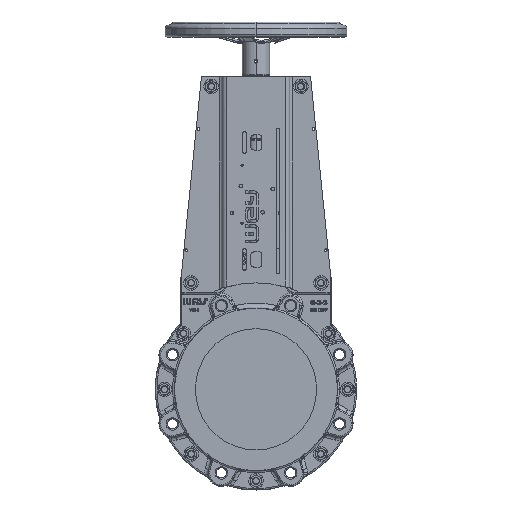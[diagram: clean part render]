
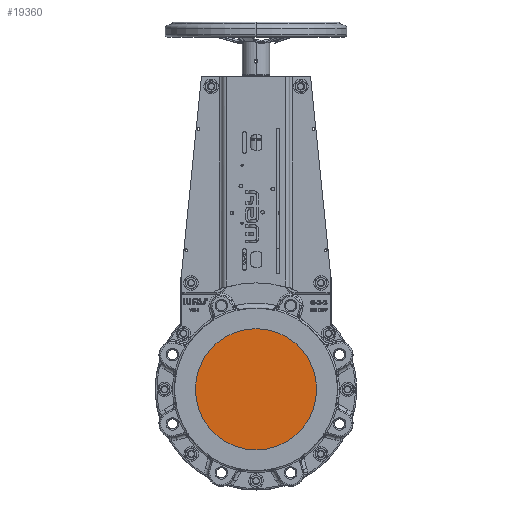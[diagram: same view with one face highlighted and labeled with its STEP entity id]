
A CAD part, top view. The second image highlights one B-rep face of the part: STEP entity #19360.
In plain terms, the highlighted planar face has unit normal (0, 0, 1).
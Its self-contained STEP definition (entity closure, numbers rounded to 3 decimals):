
#5136 = ORIENTED_EDGE ( 'NONE', *, *, #58540, .T. ) ;
#7538 = AXIS2_PLACEMENT_3D ( 'NONE', #82645, #82427, #82264 ) ;
#13226 = FACE_OUTER_BOUND ( 'NONE', #38157, .T. ) ;
#19360 = ADVANCED_FACE ( 'NONE', ( #13226 ), #84436, .T. ) ;
#30569 = DIRECTION ( 'NONE',  ( 0., 0., 1. ) ) ;
#34336 = DIRECTION ( 'NONE',  ( 0., 0., 1. ) ) ;
#34924 = AXIS2_PLACEMENT_3D ( 'NONE', #86147, #30569, #95327 ) ;
#38157 = EDGE_LOOP ( 'NONE', ( #5136, #106953 ) ) ;
#43628 = EDGE_CURVE ( 'NONE', #114677, #101790, #93580, .T. ) ;
#57168 = CIRCLE ( 'NONE', #34924, 100. ) ;
#58540 = EDGE_CURVE ( 'NONE', #101790, #114677, #57168, .T. ) ;
#75027 = CARTESIAN_POINT ( 'NONE',  ( 100., 0., -0.25 ) ) ;
#75737 = AXIS2_PLACEMENT_3D ( 'NONE', #89804, #34336, #99025 ) ;
#82264 = DIRECTION ( 'NONE',  ( 1., 0., 0. ) ) ;
#82427 = DIRECTION ( 'NONE',  ( 0., 0., 1. ) ) ;
#82645 = CARTESIAN_POINT ( 'NONE',  ( 0., 0., -0.25 ) ) ;
#84436 = PLANE ( 'NONE',  #7538 ) ;
#86147 = CARTESIAN_POINT ( 'NONE',  ( 0., 0., -0.25 ) ) ;
#89804 = CARTESIAN_POINT ( 'NONE',  ( 0., 0., -0.25 ) ) ;
#93580 = CIRCLE ( 'NONE', #75737, 100. ) ;
#95327 = DIRECTION ( 'NONE',  ( 1., 0., 0. ) ) ;
#99025 = DIRECTION ( 'NONE',  ( 1., 0., 0. ) ) ;
#101790 = VERTEX_POINT ( 'NONE', #119606 ) ;
#106953 = ORIENTED_EDGE ( 'NONE', *, *, #43628, .T. ) ;
#114677 = VERTEX_POINT ( 'NONE', #75027 ) ;
#119606 = CARTESIAN_POINT ( 'NONE',  ( -100., 0., -0.25 ) ) ;
